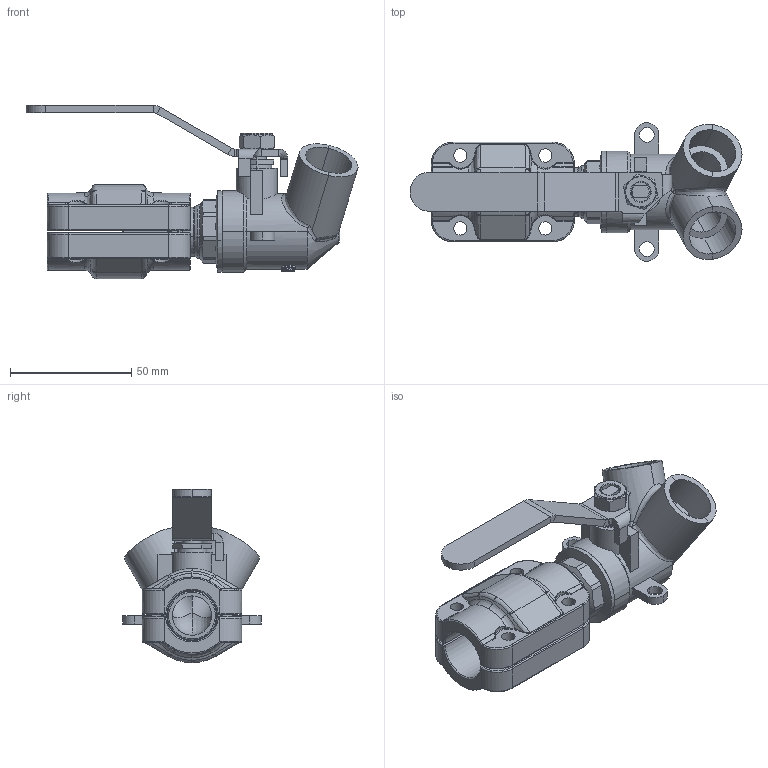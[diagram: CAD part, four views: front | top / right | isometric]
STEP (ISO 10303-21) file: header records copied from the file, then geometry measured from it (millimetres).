
FILE_DESCRIPTION(/* description */ (''),/* implementation_level */ '2;1');
FILE_NAME(/* name */ '1551.stp',/* time_stamp */ '2022-05-12T16:10:08+08:00',/* author */ (''),/* organization */ (''),/* preprocessor_version */ 'ST-DEVELOPER v11',/* originating_system */ 'SIEMENS PLM Software NX 7.5',/* authorisation */ '');
FILE_SCHEMA (('CONFIG_CONTROL_DESIGN'));
Length unit declared in the file: millimetre
Products named in the file (1): Admi9B78rdxk
Bounding box: 136.69 x 57 x 71.4 mm (x, y, z)
Volume: 85666.6 mm3; surface area: 46577.1 mm2
Topology: 8 solids, 8 shells, 763 faces, 1822 edges, 1088 vertices
Faces by surface type: cylinder 223, bspline 218, plane 178, cone 73, torus 65, sphere 6
Entity records: 43502 total; most frequent: CARTESIAN_POINT 27387, ORIENTED_EDGE 3622, DIRECTION 2961, EDGE_CURVE 1811, AXIS2_PLACEMENT_3D 1189, VERTEX_POINT 1087, EDGE_LOOP 818, ADVANCED_FACE 762
